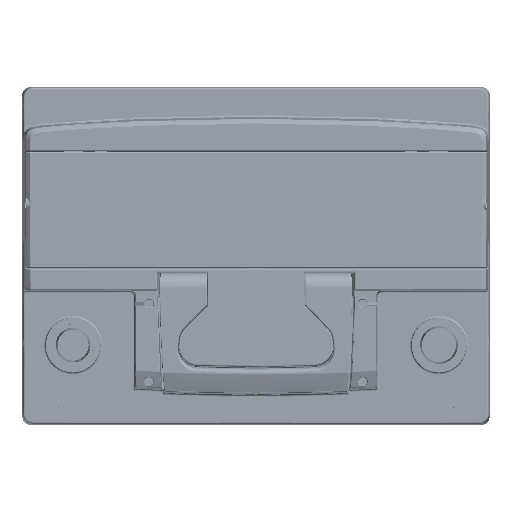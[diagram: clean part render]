
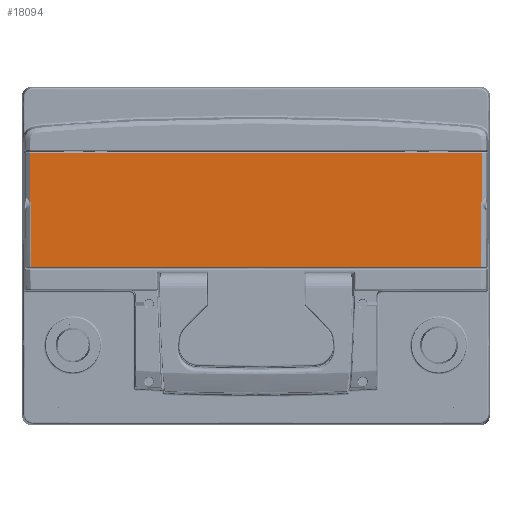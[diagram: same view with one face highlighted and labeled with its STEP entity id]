
A CAD part, top view. The second image highlights one B-rep face of the part: STEP entity #18094.
In plain terms, the highlighted planar face has unit normal (0, 0, 1).
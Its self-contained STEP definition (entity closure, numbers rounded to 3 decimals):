
#18094=ADVANCED_FACE('VENT_TOP_LN2_LBN2_PMV',(#32362),#22195,.T.);
#22195=PLANE('',#182132);
#32362=FACE_OUTER_BOUND('',#43697,.T.);
#43697=EDGE_LOOP('',(#104853,#104854,#104855,#104856,#104857,#104858,#104859,
#104860));
#56102=B_SPLINE_CURVE_WITH_KNOTS('',3,(#458385,#458386,#458387,#458388),
.UNSPECIFIED.,.F.,.F.,(4,4),(0.,1.),.UNSPECIFIED.);
#56865=B_SPLINE_CURVE_WITH_KNOTS('',5,(#479457,#479458,#479459,#479460,#479461,
#479462,#479463,#479464,#479465,#479466,#479467,#479468,#479469,#479470,
#479471,#479472,#479473,#479474,#479475,#479476,#479477,#479478,#479479,
#479480,#479481,#479482,#479483),.UNSPECIFIED.,.F.,.F.,(6,3,3,3,3,3,3,3,
6),(0.,0.014,0.042,0.255,0.647,
0.802,0.934,0.978,1.),.UNSPECIFIED.);
#56909=B_SPLINE_CURVE_WITH_KNOTS('',3,(#481237,#481238,#481239,#481240,#481241,
#481242,#481243,#481244,#481245,#481246,#481247,#481248,#481249,#481250,
#481251,#481252,#481253,#481254,#481255,#481256,#481257,#481258,#481259,
#481260,#481261,#481262,#481263,#481264),.UNSPECIFIED.,.F.,.F.,(4,1,1,1,
2,2,1,1,1,1,2,2,1,1,1,1,1,2,2,4),(0.,0.125,0.188,0.219,0.234,0.25,
0.375,0.438,0.469,0.484,0.492,0.5,0.625,0.687,
0.719,0.734,0.742,0.746,
0.75,1.),.UNSPECIFIED.);
#56910=B_SPLINE_CURVE_WITH_KNOTS('',3,(#481265,#481266,#481267,#481268),
.UNSPECIFIED.,.F.,.F.,(4,4),(0.,1.),.UNSPECIFIED.);
#56911=B_SPLINE_CURVE_WITH_KNOTS('',5,(#481272,#481273,#481274,#481275,#481276,
#481277,#481278,#481279,#481280,#481281,#481282,#481283,#481284,#481285,
#481286,#481287,#481288,#481289),.UNSPECIFIED.,.F.,.F.,(6,3,3,3,3,6),(0.,
0.08,0.206,0.335,0.673,
1.),.UNSPECIFIED.);
#56912=B_SPLINE_CURVE_WITH_KNOTS('',5,(#481290,#481291,#481292,#481293,#481294,
#481295,#481296,#481297,#481298,#481299,#481300,#481301,#481302,#481303,
#481304,#481305,#481306,#481307),.UNSPECIFIED.,.F.,.F.,(6,3,3,3,3,6),(0.,
0.496,0.669,0.832,0.944,1.),
.UNSPECIFIED.);
#104853=ORIENTED_EDGE('',*,*,#151253,.T.);
#104854=ORIENTED_EDGE('',*,*,#151254,.T.);
#104855=ORIENTED_EDGE('',*,*,#149613,.T.);
#104856=ORIENTED_EDGE('',*,*,#151255,.T.);
#104857=ORIENTED_EDGE('',*,*,#151256,.F.);
#104858=ORIENTED_EDGE('',*,*,#151257,.F.);
#104859=ORIENTED_EDGE('',*,*,#151130,.F.);
#104860=ORIENTED_EDGE('',*,*,#151258,.F.);
#126166=VERTEX_POINT('',#458379);
#126167=VERTEX_POINT('',#458384);
#127092=VERTEX_POINT('',#479484);
#127093=VERTEX_POINT('',#479485);
#127166=VERTEX_POINT('',#481235);
#127167=VERTEX_POINT('',#481236);
#127168=VERTEX_POINT('',#481269);
#127169=VERTEX_POINT('',#481271);
#149613=EDGE_CURVE('',#126166,#126167,#56102,.T.);
#151130=EDGE_CURVE('',#127092,#127093,#56865,.T.);
#151253=EDGE_CURVE('LINE',#127166,#127167,#163174,.T.);
#151254=EDGE_CURVE('',#127167,#126166,#56909,.T.);
#151255=EDGE_CURVE('',#126167,#127168,#56910,.T.);
#151256=EDGE_CURVE('LINE',#127169,#127168,#163175,.T.);
#151257=EDGE_CURVE('',#127093,#127169,#56911,.T.);
#151258=EDGE_CURVE('',#127166,#127092,#56912,.T.);
#163174=LINE('',#481234,#171592);
#163175=LINE('',#481270,#171593);
#171592=VECTOR('',#210546,1.);
#171593=VECTOR('',#210547,1.);
#182132=AXIS2_PLACEMENT_3D('',#481308,#210548,#210549);
#210546=DIRECTION('',(1.,0.,0.));
#210547=DIRECTION('',(1.,0.,0.));
#210548=DIRECTION('',(0.,0.,1.));
#210549=DIRECTION('',(0.,-1.,0.));
#458379=CARTESIAN_POINT('',(116.22,25.745,188.32));
#458384=CARTESIAN_POINT('',(116.22,27.625,188.32));
#458385=CARTESIAN_POINT('',(116.22,25.745,188.32));
#458386=CARTESIAN_POINT('',(116.117,26.472,188.32));
#458387=CARTESIAN_POINT('',(116.117,26.895,188.32));
#458388=CARTESIAN_POINT('',(116.22,27.625,188.32));
#479457=CARTESIAN_POINT('',(-116.22,25.745,188.32));
#479458=CARTESIAN_POINT('',(-116.219,25.75,188.32));
#479459=CARTESIAN_POINT('',(-116.218,25.756,188.32));
#479460=CARTESIAN_POINT('',(-116.218,25.762,188.32));
#479461=CARTESIAN_POINT('',(-116.215,25.779,188.32));
#479462=CARTESIAN_POINT('',(-116.213,25.796,188.32));
#479463=CARTESIAN_POINT('',(-116.211,25.808,188.32));
#479464=CARTESIAN_POINT('',(-116.199,25.905,188.32));
#479465=CARTESIAN_POINT('',(-116.189,26.001,188.32));
#479466=CARTESIAN_POINT('',(-116.181,26.084,188.32));
#479467=CARTESIAN_POINT('',(-116.164,26.316,188.32));
#479468=CARTESIAN_POINT('',(-116.155,26.534,188.32));
#479469=CARTESIAN_POINT('',(-116.153,26.667,188.32));
#479470=CARTESIAN_POINT('',(-116.156,26.856,188.32));
#479471=CARTESIAN_POINT('',(-116.166,27.056,188.32));
#479472=CARTESIAN_POINT('',(-116.169,27.113,188.32));
#479473=CARTESIAN_POINT('',(-116.176,27.222,188.32));
#479474=CARTESIAN_POINT('',(-116.186,27.334,188.32));
#479475=CARTESIAN_POINT('',(-116.191,27.386,188.32));
#479476=CARTESIAN_POINT('',(-116.198,27.456,188.32));
#479477=CARTESIAN_POINT('',(-116.207,27.527,188.32));
#479478=CARTESIAN_POINT('',(-116.209,27.545,188.32));
#479479=CARTESIAN_POINT('',(-116.212,27.571,188.32));
#479480=CARTESIAN_POINT('',(-116.216,27.598,188.32));
#479481=CARTESIAN_POINT('',(-116.217,27.607,188.32));
#479482=CARTESIAN_POINT('',(-116.219,27.616,188.32));
#479483=CARTESIAN_POINT('',(-116.22,27.625,188.32));
#479484=CARTESIAN_POINT('',(-116.22,25.745,188.32));
#479485=CARTESIAN_POINT('',(-116.22,27.625,188.32));
#481234=CARTESIAN_POINT('',(0.,-5.865,188.32));
#481235=CARTESIAN_POINT('',(-116.124,-5.865,188.32));
#481236=CARTESIAN_POINT('',(116.124,-5.865,188.32));
#481237=CARTESIAN_POINT('',(116.124,-5.865,188.32));
#481238=CARTESIAN_POINT('',(116.14,-4.641,188.32));
#481239=CARTESIAN_POINT('',(116.162,-2.736,188.32));
#481240=CARTESIAN_POINT('',(116.181,-0.393,188.32));
#481241=CARTESIAN_POINT('',(116.189,0.808,188.32));
#481242=CARTESIAN_POINT('',(116.192,1.329,188.32));
#481243=CARTESIAN_POINT('',(116.194,1.678,188.32));
#481244=CARTESIAN_POINT('',(116.195,1.889,188.32));
#481245=CARTESIAN_POINT('',(116.202,3.15,188.32));
#481246=CARTESIAN_POINT('',(116.209,4.979,188.32));
#481247=CARTESIAN_POINT('',(116.215,7.369,188.32));
#481248=CARTESIAN_POINT('',(116.217,8.628,188.32));
#481249=CARTESIAN_POINT('',(116.218,9.273,188.32));
#481250=CARTESIAN_POINT('',(116.218,9.554,188.32));
#481251=CARTESIAN_POINT('',(116.218,9.741,188.32));
#481252=CARTESIAN_POINT('',(116.218,9.881,188.32));
#481253=CARTESIAN_POINT('',(116.219,10.706,188.32));
#481254=CARTESIAN_POINT('',(116.22,12.277,188.32));
#481255=CARTESIAN_POINT('',(116.22,14.819,188.32));
#481256=CARTESIAN_POINT('',(116.22,16.269,188.32));
#481257=CARTESIAN_POINT('',(116.22,17.038,188.32));
#481258=CARTESIAN_POINT('',(116.22,17.433,188.32));
#481259=CARTESIAN_POINT('',(116.22,17.605,188.32));
#481260=CARTESIAN_POINT('',(116.22,17.72,188.32));
#481261=CARTESIAN_POINT('',(116.22,17.808,188.32));
#481262=CARTESIAN_POINT('',(116.22,19.671,188.32));
#481263=CARTESIAN_POINT('',(116.22,22.307,188.32));
#481264=CARTESIAN_POINT('',(116.22,25.745,188.32));
#481265=CARTESIAN_POINT('',(116.22,27.625,188.32));
#481266=CARTESIAN_POINT('',(116.22,36.144,188.32));
#481267=CARTESIAN_POINT('',(116.22,44.662,188.32));
#481268=CARTESIAN_POINT('',(116.22,53.181,188.32));
#481269=CARTESIAN_POINT('',(116.22,53.181,188.32));
#481270=CARTESIAN_POINT('',(0.,53.181,188.32));
#481271=CARTESIAN_POINT('',(-116.22,53.181,188.32));
#481272=CARTESIAN_POINT('',(-116.22,27.625,188.32));
#481273=CARTESIAN_POINT('',(-116.22,28.036,188.321));
#481274=CARTESIAN_POINT('',(-116.22,28.447,188.319));
#481275=CARTESIAN_POINT('',(-116.22,28.858,188.321));
#481276=CARTESIAN_POINT('',(-116.22,29.908,188.319));
#481277=CARTESIAN_POINT('',(-116.22,30.959,188.321));
#481278=CARTESIAN_POINT('',(-116.22,31.598,188.32));
#481279=CARTESIAN_POINT('',(-116.22,32.899,188.32));
#481280=CARTESIAN_POINT('',(-116.22,34.2,188.32));
#481281=CARTESIAN_POINT('',(-116.22,34.861,188.32));
#481282=CARTESIAN_POINT('',(-116.22,37.251,188.32));
#481283=CARTESIAN_POINT('',(-116.22,39.642,188.32));
#481284=CARTESIAN_POINT('',(-116.22,41.371,188.32));
#481285=CARTESIAN_POINT('',(-116.22,44.77,188.32));
#481286=CARTESIAN_POINT('',(-116.22,48.17,188.32));
#481287=CARTESIAN_POINT('',(-116.22,49.84,188.32));
#481288=CARTESIAN_POINT('',(-116.22,51.51,188.32));
#481289=CARTESIAN_POINT('',(-116.22,53.181,188.32));
#481290=CARTESIAN_POINT('',(-116.124,-5.865,188.32));
#481291=CARTESIAN_POINT('',(-116.166,-2.736,188.32));
#481292=CARTESIAN_POINT('',(-116.193,0.394,188.32));
#481293=CARTESIAN_POINT('',(-116.208,3.526,188.32));
#481294=CARTESIAN_POINT('',(-116.218,7.756,188.32));
#481295=CARTESIAN_POINT('',(-116.22,11.987,188.32));
#481296=CARTESIAN_POINT('',(-116.22,13.084,188.32));
#481297=CARTESIAN_POINT('',(-116.221,15.211,188.32));
#481298=CARTESIAN_POINT('',(-116.22,17.338,188.32));
#481299=CARTESIAN_POINT('',(-116.22,18.367,188.32));
#481300=CARTESIAN_POINT('',(-116.22,20.106,188.32));
#481301=CARTESIAN_POINT('',(-116.22,21.845,188.32));
#481302=CARTESIAN_POINT('',(-116.22,22.554,188.32));
#481303=CARTESIAN_POINT('',(-116.22,23.618,188.32));
#481304=CARTESIAN_POINT('',(-116.22,24.681,188.32));
#481305=CARTESIAN_POINT('',(-116.22,25.036,188.319));
#481306=CARTESIAN_POINT('',(-116.22,25.39,188.321));
#481307=CARTESIAN_POINT('',(-116.22,25.745,188.32));
#481308=CARTESIAN_POINT('',(0.,-0.03,188.32));
